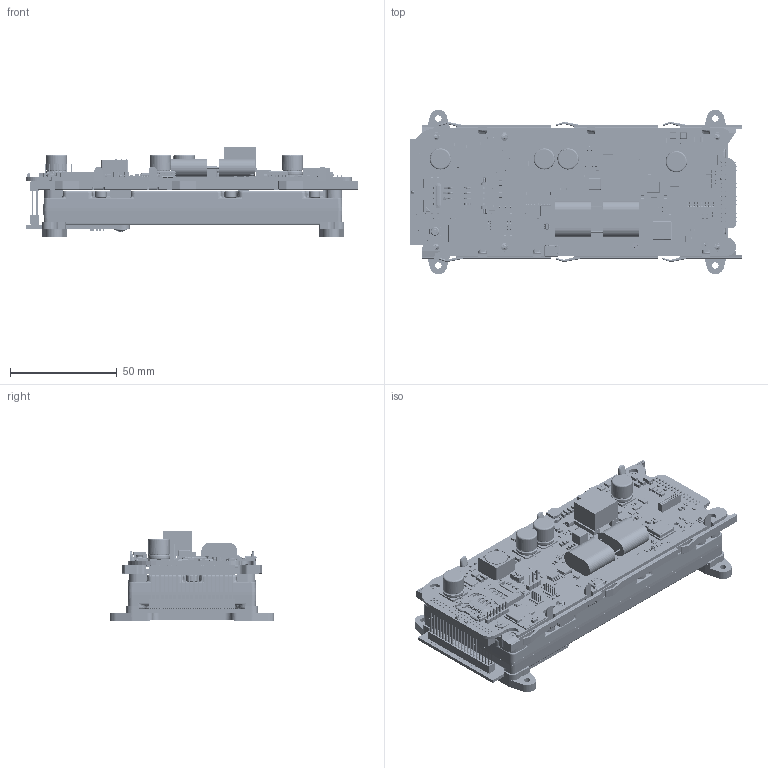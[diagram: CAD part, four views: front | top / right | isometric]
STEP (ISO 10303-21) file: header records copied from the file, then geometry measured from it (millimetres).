
FILE_DESCRIPTION(('FreeCAD Model'),'2;1');
FILE_NAME('Open CASCADE Shape Model','2025-02-17T10:05:37',(''),(''), 'Open CASCADE STEP processor 7.6','FreeCAD','Unknown');
FILE_SCHEMA(('AUTOMOTIVE_DESIGN { 1 0 10303 214 1 1 1 1 }'));
Length unit declared in the file: millimetre
Products named in the file (66): RockREMOTE_MINI_OEM_25-03-24; 9770-3D-ENVELOPE-840-00081_PA007; 9770-3D-ENVELOPE-840-00081_PA3; 9770-3D-ENVELOPE-840-00081_PA004; 9770-3D-ENVELOPE-840-00081_PA005; 9770-3D-ENVELOPE-840-00081_PA006; 01003  -  C3; rr-lite-9770 DRAFT059; rr-lite-9770 DRAFT5; rr-lite-9770 DRAFT006; rr-lite-9770 DRAFT007; rr-lite-9770 DRAFT008; rr-lite-9770 DRAFT009; rr-lite-9770 DRAFT010; rr-lite-9770 DRAFT011; rr-lite-9770 DRAFT012; rr-lite-9770 DRAFT013; rr-lite-9770 DRAFT014; rr-lite-9770 DRAFT015; rr-lite-9770 DRAFT016; rr-lite-9770 DRAFT017; rr-lite-9770 DRAFT018; rr-lite-9770 DRAFT019; rr-lite-9770 DRAFT020; rr-lite-9770 DRAFT021; rr-lite-9770 DRAFT022; rr-lite-9770 DRAFT023; rr-lite-9770 DRAFT024; rr-lite-9770 DRAFT025; rr-lite-9770 DRAFT026; rr-lite-9770 DRAFT027; rr-lite-9770 DRAFT028; rr-lite-9770 DRAFT029; rr-lite-9770 DRAFT030; rr-lite-9770 DRAFT031; rr-lite-9770 DRAFT032; rr-lite-9770 DRAFT033; rr-lite-9770 DRAFT034; rr-lite-9770 DRAFT035; rr-lite-9770 DRAFT036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
Assembly tree (70 placements, depth 3):
  RockREMOTE_MINI_OEM_25-03-24
    9770-3D-ENVELOPE-840-00081_PA007
      9770-3D-ENVELOPE-840-00081_PA3
      9770-3D-ENVELOPE-840-00081_PA004
      9770-3D-ENVELOPE-840-00081_PA005
      9770-3D-ENVELOPE-840-00081_PA006
    01003  -  C3
    rr-lite-9770 DRAFT059
      rr-lite-9770 DRAFT5
      rr-lite-9770 DRAFT006
      rr-lite-9770 DRAFT007
      rr-lite-9770 DRAFT008
      rr-lite-9770 DRAFT009
      rr-lite-9770 DRAFT010
      rr-lite-9770 DRAFT011
      rr-lite-9770 DRAFT012
      rr-lite-9770 DRAFT013
      rr-lite-9770 DRAFT014
      rr-lite-9770 DRAFT015
      rr-lite-9770 DRAFT016
      rr-lite-9770 DRAFT017
      rr-lite-9770 DRAFT018
      rr-lite-9770 DRAFT019
      rr-lite-9770 DRAFT020
      rr-lite-9770 DRAFT021
      rr-lite-9770 DRAFT022
      rr-lite-9770 DRAFT023
      rr-lite-9770 DRAFT024
      rr-lite-9770 DRAFT025
      rr-lite-9770 DRAFT026
      rr-lite-9770 DRAFT027
      rr-lite-9770 DRAFT028
      rr-lite-9770 DRAFT029
      rr-lite-9770 DRAFT030
      rr-lite-9770 DRAFT031
      rr-lite-9770 DRAFT032
      rr-lite-9770 DRAFT033
      rr-lite-9770 DRAFT034
      rr-lite-9770 DRAFT035
      rr-lite-9770 DRAFT036
      rr-lite-9770 DRAFT037
      rr-lite-9770 DRAFT038
      rr-lite-9770 DRAFT039
      rr-lite-9770 DRAFT040
      rr-lite-9770 DRAFT041
      rr-lite-9770 DRAFT042
      rr-lite-9770 DRAFT043
      rr-lite-9770 DRAFT044
      rr-lite-9770 DRAFT045
      rr-lite-9770 DRAFT046
      rr-lite-9770 DRAFT047
      rr-lite-9770 DRAFT048
      rr-lite-9770 DRAFT049
      rr-lite-9770 DRAFT050
      rr-lite-9770 DRAFT051
      rr-lite-9770 DRAFT052
      rr-lite-9770 DRAFT053
      rr-lite-9770 DRAFT054
      rr-lite-9770 DRAFT055
      rr-lite-9770 DRAFT056
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Bounding box: 155.82 x 77.15 x 42.48 mm (x, y, z)
Volume: 115679 mm3; surface area: 138658 mm2
Topology: 747 solids, 754 shells, 38815 faces, 100934 edges, 65023 vertices
Faces by surface type: plane 24471, cylinder 7999, bspline 5734, cone 373, torus 157, sphere 51, revolution 30
Full cylindrical faces by diameter (mm): 0.055 x2, 0.057 x1, 0.1 x1, 0.2 x3, 0.3 x13, 0.35 x2, 0.4 x3, 0.5 x7, 0.55 x1, 0.6 x5, 0.7 x20, 0.8 x89, 0.9 x2, 1 x4, 1.35 x4, 1.4 x3, 1.7 x2, 1.86 x2, 2 x5, 2.15 x1, 2.2 x2, 3 x1, 4.5 x5, 4.75 x1, 10 x8
Entity records: 1273571 total; most frequent: CARTESIAN_POINT 359958, ORIENTED_EDGE 199058, DIRECTION 167054, EDGE_CURVE 99529, LINE 69734, VECTOR 69734, VERTEX_POINT 64283, AXIS2_PLACEMENT_3D 48645
